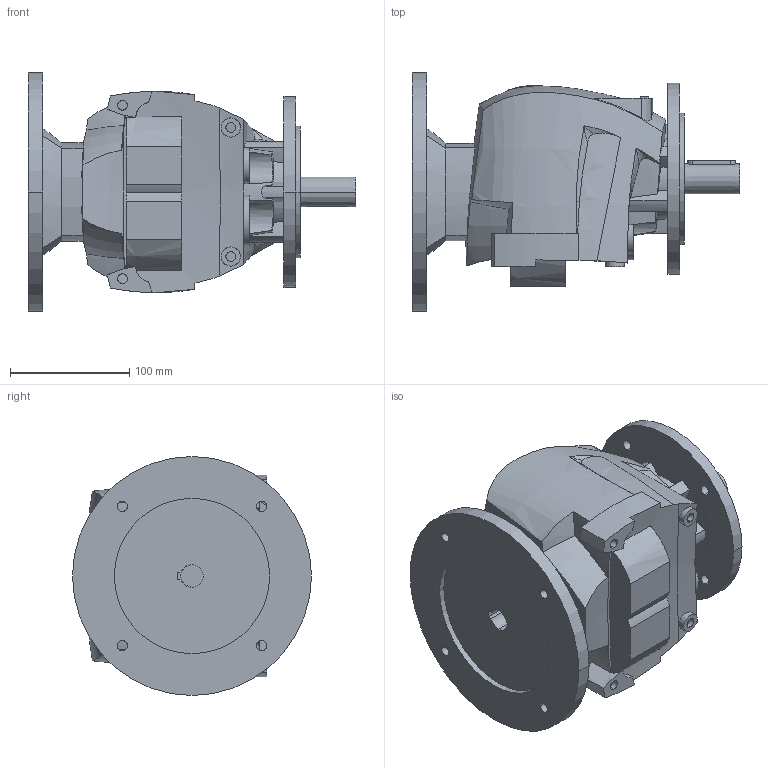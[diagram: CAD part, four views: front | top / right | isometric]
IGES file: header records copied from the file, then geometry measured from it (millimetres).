
Start section:  PTC IGES file: r25_160_pam80.igs
Global section: file name: r25_160_pam80.igs; native system: Pro/ENGINEER by Parametric Technology Corporation; preprocessor: 2008230; author: Luca; organization: Unknown; date: 20131217.163559; units: millimetre
Bounding box: 274 x 200 x 200 mm (x, y, z)
Volume: 3677294.8 mm3; surface area: 248429.3 mm2
Topology: 1 solids, 7 shells, 408 faces, 1091 edges, 729 vertices
Faces by surface type: bspline 251, revolution 157
